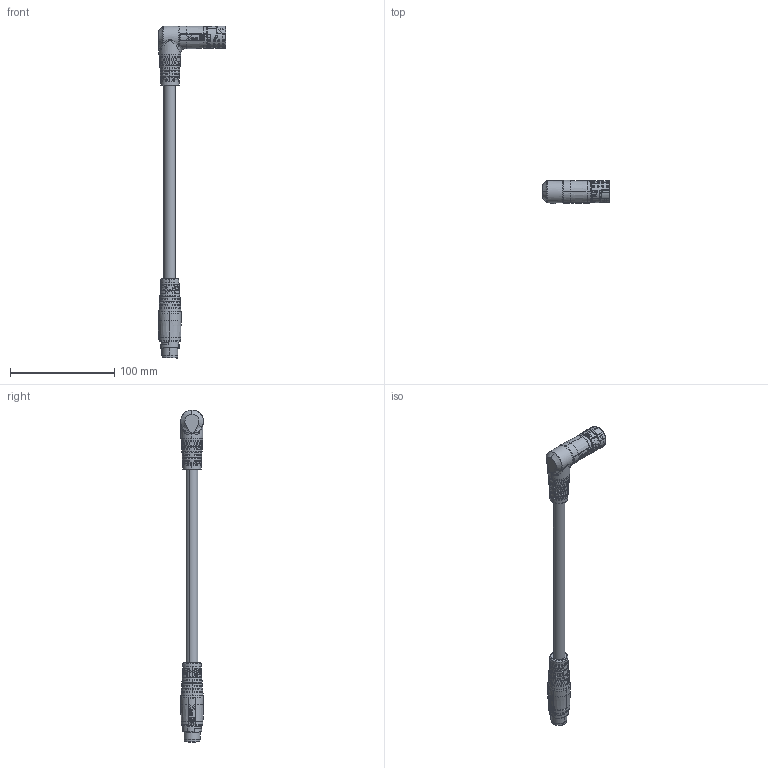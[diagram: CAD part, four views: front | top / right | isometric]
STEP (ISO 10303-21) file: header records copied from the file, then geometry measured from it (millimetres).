
FILE_DESCRIPTION (( 'STEP AP214' ), '1' );
FILE_NAME ('W-TEC 15K STI-BU-90°L 4x-6x.STEP', '2021-06-10T15:16:30', ( '' ), ( '' ), 'SwSTEP 2.0', 'SolidWorks 2021', '' );
FILE_SCHEMA (( 'AUTOMOTIVE_DESIGN' ));
Length unit declared in the file: millimetre
Products named in the file (1): W-TEC 15K STI-BU-90袂 4x-6x
Bounding box: 64.27 x 21.86 x 318.35 mm (x, y, z)
Surface area: 24003.3 mm2 (no closed solid volume)
Topology: 0 solids, 30 shells, 1712 faces, 4765 edges, 3006 vertices
Faces by surface type: bspline 699, plane 499, cylinder 392, cone 71, torus 47, sphere 4
Entity records: 107841 total; most frequent: CARTESIAN_POINT 52444, ORIENTED_EDGE 8981, DIRECTION 5593, EDGE_CURVE 4606, VERTEX_POINT 3006, AXIS2_PLACEMENT_3D 2128, B_SPLINE_CURVE_WITH_KNOTS 1956, EDGE_LOOP 1811
